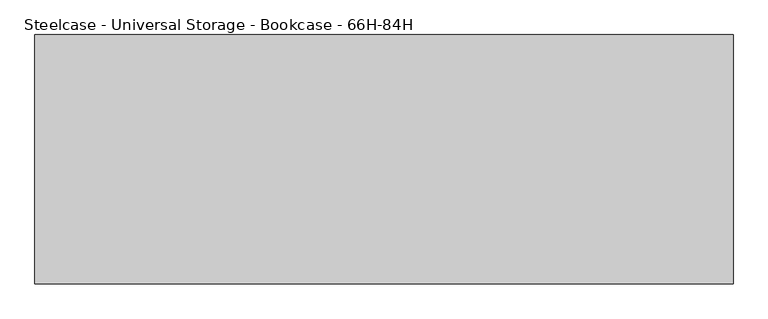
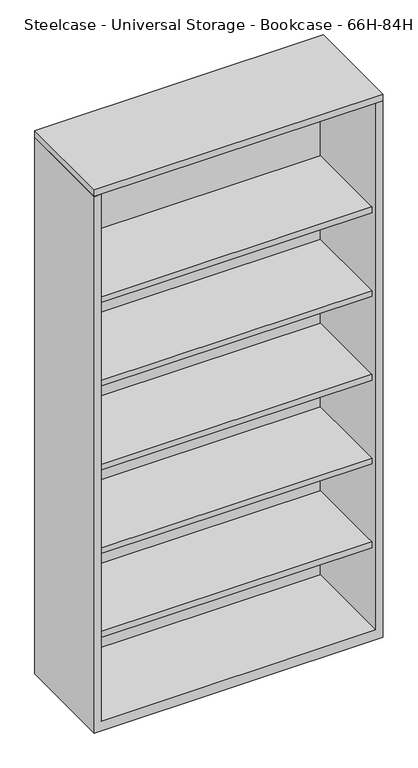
"""IFC4 building model written with IfcOpenShell, lengths in millimetres: furniture geometry, Steelcase - Universal Storage - Bookcase - 66H-84H : 83 1/2H x 42W."""

from ifc_helpers import new_model, si_unit, frame, origin, place, context, project, spatial, polyline, outline, extrude, faceted_brep, source, transform, mapped, element, save


def steelcase_universal_storage_bookcase_66h_84h_c275ac46(model_context):
    return source(origin(), model_context, "Body", "SolidModel", [
        extrude(outline(polyline([(1066.8, -98.552), (1066.8, -479.552), (0.0, -479.552), (0.0, -98.552), (1066.8, -98.552)])), frame((0.0, 0.0, 2097.0239516), z_axis=(0.0, 0.0, 1.0), x_axis=(1.0, 0.0, 0.0)), (0.0, 0.0, 1.0), 25.4000484),
        extrude(outline(polyline([(1041.4000242, -123.9520008), (1041.4000242, -454.0250121), (25.4000008, -454.0250121), (25.4000008, -123.9520008), (1041.4000242, -123.9520008)])), frame((0.0, 0.0, 344.424), z_axis=(0.0, 0.0, 1.0), x_axis=(1.0, 0.0, 0.0)), (0.0, 0.0, 1.0), 22.2249516),
        extrude(outline(polyline([(1041.4000242, -123.9520008), (1041.4000242, -454.0250121), (25.4000008, -454.0250121), (25.4000008, -123.9520008), (1041.4000242, -123.9520008)])), frame((0.0, 0.0, 671.4489516), z_axis=(0.0, 0.0, 1.0), x_axis=(1.0, 0.0, 0.0)), (0.0, 0.0, 1.0), 22.2249516),
        extrude(outline(polyline([(1041.4000242, -123.9520008), (1041.4000242, -454.0250121), (25.4000008, -454.0250121), (25.4000008, -123.9520008), (1041.4000242, -123.9520008)])), frame((0.0, 0.0, 998.4739031), z_axis=(0.0, 0.0, 1.0), x_axis=(1.0, 0.0, 0.0)), (0.0, 0.0, 1.0), 22.2249516),
        extrude(outline(polyline([(1041.4000242, -123.9520008), (1041.4000242, -454.0250121), (25.4000008, -454.0250121), (25.4000008, -123.9520008), (1041.4000242, -123.9520008)])), frame((0.0, 0.0, 1325.4988547), z_axis=(0.0, 0.0, 1.0), x_axis=(1.0, 0.0, 0.0)), (0.0, 0.0, 1.0), 22.2249516),
        extrude(outline(polyline([(1041.4000242, -123.9520008), (1041.4000242, -454.0250121), (25.4000008, -454.0250121), (25.4000008, -123.9520008), (1041.4000242, -123.9520008)])), frame((0.0, 0.0, 1652.5238062), z_axis=(0.0, 0.0, 1.0), x_axis=(1.0, 0.0, 0.0)), (0.0, 0.0, 1.0), 22.2249516),
        faceted_brep([(25.4000008, -479.552, 38.1), (1041.4000242, -479.552, 38.1), (1041.4000242, -123.9520008, 38.1), (25.4000008, -123.9520008, 38.1), (1066.8, -98.552, 0.0), (1066.8, -479.552, 0.0), (0.0, -479.552, 0.0), (0.0, -98.552, 0.0), (0.0, -98.552, 2095.5), (1066.8, -98.552, 2095.5), (0.0, -479.552, 2095.5), (1066.8, -479.552, 2095.5), (1041.4000242, -479.552, 2095.5), (25.4000008, -479.552, 2095.5), (1041.4000242, -123.9520008, 2095.5), (25.4000008, -123.9520008, 2095.5)], [[[0, 1, 2, 3]], [[4, 5, 6, 7]], [[4, 7, 8, 9]], [[8, 7, 6, 10]], [[10, 6, 5, 11, 12, 1, 0, 13]], [[11, 5, 4, 9]], [[14, 12, 11, 9, 8, 10, 13, 15]], [[12, 14, 2, 1]], [[15, 13, 0, 3]], [[14, 15, 3, 2]]]),
    ])


if __name__ == "__main__":
    model = new_model("IFC4")
    model_context = context("Model", 3, world=origin())
    ifc_project = project(units=[si_unit("LENGTHUNIT", "METRE", prefix="MILLI")], contexts=[model_context])
    site = spatial("IfcSite", under=ifc_project)
    building = spatial("IfcBuilding", under=site)
    placement = place(None, origin())
    steelcase_universal_storage_bookcase_66h_84h_shape = steelcase_universal_storage_bookcase_66h_84h_c275ac46(model_context)
    element("IfcFurniture", 1, ObjectType="Steelcase - Universal Storage - Bookcase - 66H-84H : 83 1/2H x 42W", at=placement, inside=building, context=model_context, shape_type="MappedRepresentation", body=[
        mapped(steelcase_universal_storage_bookcase_66h_84h_shape, transform((0.0, 0.0, 0.0), x_axis=(1.0, 0.0, 0.0), y_axis=(0.0, 1.0, 0.0), z_axis=(0.0, 0.0, 1.0))),
    ])
    save(model, "model.ifc")
